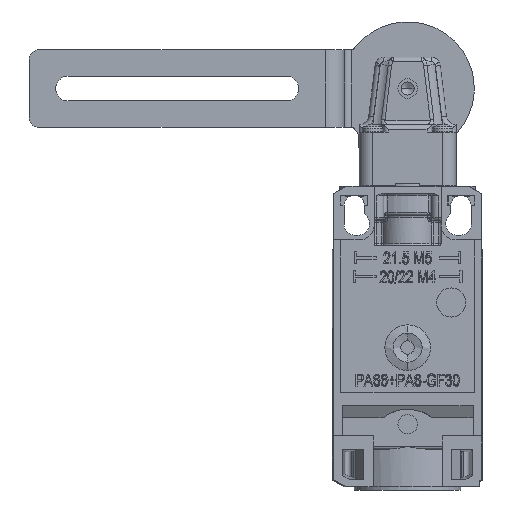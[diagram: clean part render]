
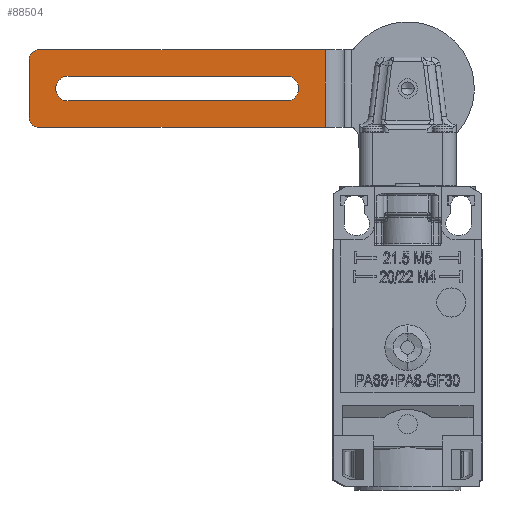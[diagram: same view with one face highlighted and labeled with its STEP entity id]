
A CAD part, front view. The second image highlights one B-rep face of the part: STEP entity #88504.
In plain terms, the highlighted planar face has unit normal (0, -1, 0).
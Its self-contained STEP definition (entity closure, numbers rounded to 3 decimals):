
#87574=DIRECTION('',(0.,0.,-1.));
#87575=VECTOR('',#87574,16.);
#87576=CARTESIAN_POINT('',(-17.,-10.,30.1));
#87577=LINE('',#87576,#87575);
#87581=CARTESIAN_POINT('',(-76.,-10.,16.1));
#87582=DIRECTION('',(0.,-1.,0.));
#87583=DIRECTION('',(-1.,0.,0.));
#87584=AXIS2_PLACEMENT_3D('',#87581,#87582,#87583);
#87589=DIRECTION('',(0.,0.,1.));
#87590=VECTOR('',#87589,12.);
#87591=CARTESIAN_POINT('',(-78.,-10.,16.1));
#87592=LINE('',#87591,#87590);
#87596=CARTESIAN_POINT('',(-76.,-10.,28.1));
#87597=DIRECTION('',(0.,-1.,0.));
#87598=DIRECTION('',(0.,0.,1.));
#87599=AXIS2_PLACEMENT_3D('',#87596,#87597,#87598);
#87604=CARTESIAN_POINT('',(-25.,-10.,22.1));
#87605=DIRECTION('',(0.,-1.,0.));
#87606=DIRECTION('',(0.,0.,-1.));
#87607=AXIS2_PLACEMENT_3D('',#87604,#87605,#87606);
#87612=DIRECTION('',(-1.,0.,0.));
#87613=VECTOR('',#87612,45.);
#87614=CARTESIAN_POINT('',(-25.,-10.,24.65));
#87615=LINE('',#87614,#87613);
#87619=CARTESIAN_POINT('',(-70.,-10.,22.1));
#87620=DIRECTION('',(0.,-1.,0.));
#87621=DIRECTION('',(0.,0.,1.));
#87622=AXIS2_PLACEMENT_3D('',#87619,#87620,#87621);
#87627=DIRECTION('',(1.,0.,0.));
#87628=VECTOR('',#87627,45.);
#87629=CARTESIAN_POINT('',(-70.,-10.,19.55));
#87630=LINE('',#87629,#87628);
#87670=DIRECTION('',(1.,0.,0.));
#87671=VECTOR('',#87670,59.);
#87672=CARTESIAN_POINT('',(-76.,-10.,14.1));
#87673=LINE('',#87672,#87671);
#88116=DIRECTION('',(1.,0.,0.));
#88117=VECTOR('',#88116,59.);
#88118=CARTESIAN_POINT('',(-76.,-10.,30.1));
#88119=LINE('',#88118,#88117);
#88266=CARTESIAN_POINT('',(-25.,-10.,19.55));
#88267=CARTESIAN_POINT('',(-25.,-10.,24.65));
#88268=VERTEX_POINT('',#88266);
#88269=VERTEX_POINT('',#88267);
#88270=CARTESIAN_POINT('',(-70.,-10.,24.65));
#88271=VERTEX_POINT('',#88270);
#88272=CARTESIAN_POINT('',(-70.,-10.,19.55));
#88273=VERTEX_POINT('',#88272);
#88302=CARTESIAN_POINT('',(-76.,-10.,30.1));
#88303=CARTESIAN_POINT('',(-78.,-10.,28.1));
#88304=VERTEX_POINT('',#88302);
#88305=VERTEX_POINT('',#88303);
#88314=CARTESIAN_POINT('',(-78.,-10.,16.1));
#88315=VERTEX_POINT('',#88314);
#88316=CARTESIAN_POINT('',(-76.,-10.,14.1));
#88317=VERTEX_POINT('',#88316);
#88319=CARTESIAN_POINT('',(-17.,-10.,14.1));
#88321=VERTEX_POINT('',#88319);
#88322=CARTESIAN_POINT('',(-17.,-10.,30.1));
#88323=VERTEX_POINT('',#88322);
#88477=CARTESIAN_POINT('',(-78.,-10.,14.1));
#88478=DIRECTION('',(0.,-1.,0.));
#88479=DIRECTION('',(1.,0.,0.));
#88480=AXIS2_PLACEMENT_3D('',#88477,#88478,#88479);
#88481=PLANE('',#88480);
#88483=ORIENTED_EDGE('',*,*,#88482,.T.);
#88485=ORIENTED_EDGE('',*,*,#88484,.F.);
#88486=ORIENTED_EDGE('',*,*,#88405,.F.);
#88488=ORIENTED_EDGE('',*,*,#88487,.T.);
#88489=ORIENTED_EDGE('',*,*,#88460,.F.);
#88491=ORIENTED_EDGE('',*,*,#88490,.T.);
#88492=EDGE_LOOP('',(#88483,#88485,#88486,#88488,#88489,#88491));
#88493=FACE_OUTER_BOUND('',#88492,.F.);
#88495=ORIENTED_EDGE('',*,*,#88494,.T.);
#88497=ORIENTED_EDGE('',*,*,#88496,.T.);
#88499=ORIENTED_EDGE('',*,*,#88498,.T.);
#88501=ORIENTED_EDGE('',*,*,#88500,.T.);
#88502=EDGE_LOOP('',(#88495,#88497,#88499,#88501));
#88503=FACE_BOUND('',#88502,.F.);
#87585=CIRCLE('',#87584,2.);
#87600=CIRCLE('',#87599,2.);
#87608=CIRCLE('',#87607,2.55);
#87623=CIRCLE('',#87622,2.55);
#88405=EDGE_CURVE('',#88315,#88317,#87585,.T.);
#88460=EDGE_CURVE('',#88304,#88305,#87600,.T.);
#88482=EDGE_CURVE('',#88323,#88321,#87577,.T.);
#88484=EDGE_CURVE('',#88317,#88321,#87673,.T.);
#88487=EDGE_CURVE('',#88315,#88305,#87592,.T.);
#88490=EDGE_CURVE('',#88304,#88323,#88119,.T.);
#88494=EDGE_CURVE('',#88268,#88269,#87608,.T.);
#88496=EDGE_CURVE('',#88269,#88271,#87615,.T.);
#88498=EDGE_CURVE('',#88271,#88273,#87623,.T.);
#88500=EDGE_CURVE('',#88273,#88268,#87630,.T.);
#88504=ADVANCED_FACE('',(#88493,#88503),#88481,.T.);
